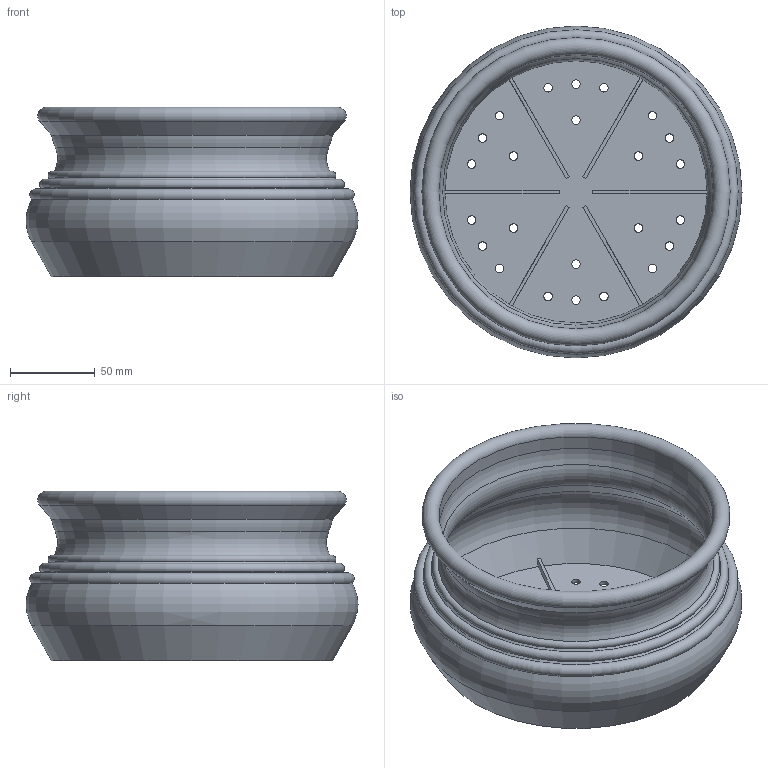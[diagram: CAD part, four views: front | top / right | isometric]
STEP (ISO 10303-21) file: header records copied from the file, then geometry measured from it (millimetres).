
FILE_DESCRIPTION(/* description */ (''),/* implementation_level */ '2;1');
FILE_NAME(/* name */ 'LR2406-S20-H100-D200_step.step',/* time_stamp */ '2024-02-01T11:00:57+01:00',/* author */ (''),/* organization */ (''),/* preprocessor_version */ 'ST-DEVELOPER v20',/* originating_system */ 'Autodesk Translation Framework v12.20.1.177',/* authorisation */ '');
FILE_SCHEMA (('AUTOMOTIVE_DESIGN { 1 0 10303 214 3 1 1 }'));
Length unit declared in the file: millimetre
Products named in the file (1): LR2406-S20-H100-D200
Bounding box: 196 x 196 x 100 mm (x, y, z)
Volume: 226219.7 mm3; surface area: 174815.2 mm2
Topology: 1 solids, 1 shells, 67 faces, 179 edges, 114 vertices
Faces by surface type: cylinder 31, plane 20, torus 10, cone 6
Full cylindrical faces by diameter (mm): 5 x24, 162 x1
Entity records: 2261 total; most frequent: DIRECTION 415, CARTESIAN_POINT 361, ORIENTED_EDGE 358, EDGE_CURVE 179, AXIS2_PLACEMENT_3D 168, EDGE_LOOP 115, VERTEX_POINT 114, CIRCLE 100
